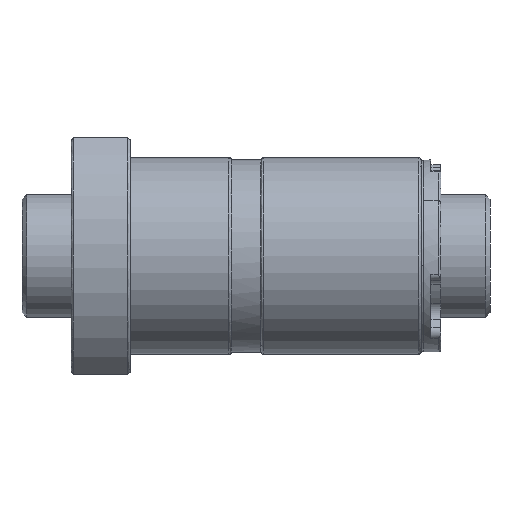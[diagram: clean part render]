
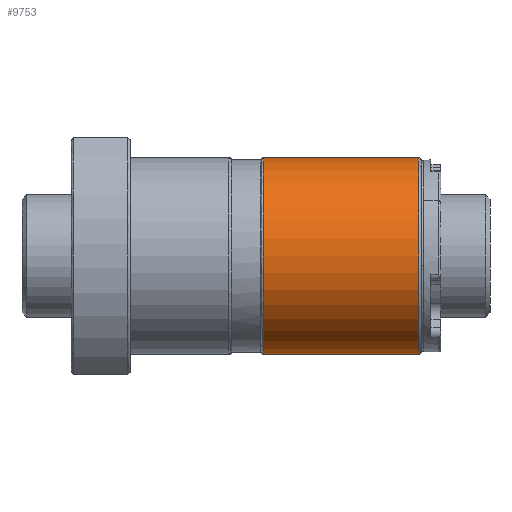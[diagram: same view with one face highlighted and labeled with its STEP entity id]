
A CAD part, front view. The second image highlights one B-rep face of the part: STEP entity #9753.
In plain terms, the highlighted cylindrical face has radius 20 mm (diameter 40 mm), a partial arc.
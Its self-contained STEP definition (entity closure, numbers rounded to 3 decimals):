
#190 = DIRECTION ( 'NONE',  ( -1., 0., 0. ) ) ;
#362 = CARTESIAN_POINT ( 'NONE',  ( 39., 0., -20. ) ) ;
#470 = DIRECTION ( 'NONE',  ( 0., 0., 1. ) ) ;
#633 = EDGE_LOOP ( 'NONE', ( #8528, #4660, #5374, #10458 ) ) ;
#668 = LINE ( 'NONE', #1903, #4907 ) ;
#1466 = CARTESIAN_POINT ( 'NONE',  ( 70.5, 0., -20. ) ) ;
#1647 = AXIS2_PLACEMENT_3D ( 'NONE', #9335, #8386, #5936 ) ;
#1648 = EDGE_CURVE ( 'NONE', #9691, #5903, #7152, .T. ) ;
#1903 = CARTESIAN_POINT ( 'NONE',  ( 71., 0., 20. ) ) ;
#2154 = CARTESIAN_POINT ( 'NONE',  ( 39., 0., 0. ) ) ;
#3042 = LINE ( 'NONE', #9450, #10099 ) ;
#4443 = VERTEX_POINT ( 'NONE', #1466 ) ;
#4660 = ORIENTED_EDGE ( 'NONE', *, *, #7609, .T. ) ;
#4907 = VECTOR ( 'NONE', #190, 1000. ) ;
#5074 = EDGE_CURVE ( 'NONE', #4443, #5903, #3042, .T. ) ;
#5374 = ORIENTED_EDGE ( 'NONE', *, *, #6977, .T. ) ;
#5435 = CARTESIAN_POINT ( 'NONE',  ( 71., 0., 0. ) ) ;
#5511 = CARTESIAN_POINT ( 'NONE',  ( 39., 0., 20. ) ) ;
#5738 = VERTEX_POINT ( 'NONE', #8670 ) ;
#5903 = VERTEX_POINT ( 'NONE', #362 ) ;
#5936 = DIRECTION ( 'NONE',  ( 0., 0., 1. ) ) ;
#6892 = DIRECTION ( 'NONE',  ( -1., 0., 0. ) ) ;
#6977 = EDGE_CURVE ( 'NONE', #5738, #9691, #668, .T. ) ;
#7152 = CIRCLE ( 'NONE', #9254, 20. ) ;
#7153 = DIRECTION ( 'NONE',  ( 0., 0., 1. ) ) ;
#7184 = DIRECTION ( 'NONE',  ( -1., 0., 0. ) ) ;
#7609 = EDGE_CURVE ( 'NONE', #4443, #5738, #10490, .T. ) ;
#8006 = DIRECTION ( 'NONE',  ( 1., 0., 0. ) ) ;
#8386 = DIRECTION ( 'NONE',  ( -1., 0., 0. ) ) ;
#8463 = AXIS2_PLACEMENT_3D ( 'NONE', #5435, #7184, #7153 ) ;
#8528 = ORIENTED_EDGE ( 'NONE', *, *, #5074, .F. ) ;
#8670 = CARTESIAN_POINT ( 'NONE',  ( 70.5, 0., 20. ) ) ;
#9254 = AXIS2_PLACEMENT_3D ( 'NONE', #2154, #8006, #470 ) ;
#9335 = CARTESIAN_POINT ( 'NONE',  ( 70.5, 0., 0. ) ) ;
#9450 = CARTESIAN_POINT ( 'NONE',  ( 71., 0., -20. ) ) ;
#9691 = VERTEX_POINT ( 'NONE', #5511 ) ;
#9753 = ADVANCED_FACE ( 'NONE', ( #9951 ), #10192, .T. ) ;
#9951 = FACE_OUTER_BOUND ( 'NONE', #633, .T. ) ;
#10099 = VECTOR ( 'NONE', #6892, 1000. ) ;
#10192 = CYLINDRICAL_SURFACE ( 'NONE', #8463, 20. ) ;
#10458 = ORIENTED_EDGE ( 'NONE', *, *, #1648, .T. ) ;
#10490 = CIRCLE ( 'NONE', #1647, 20. ) ;
